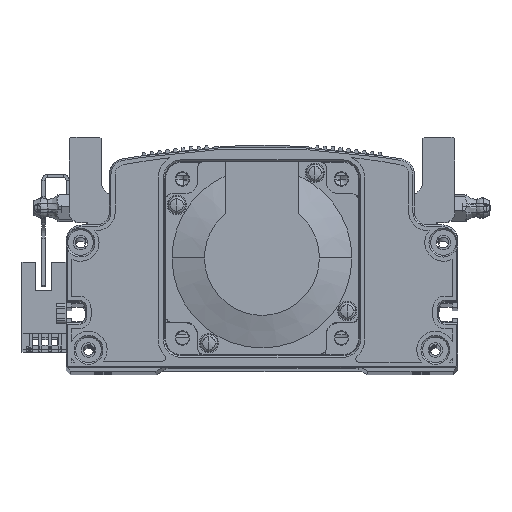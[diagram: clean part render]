
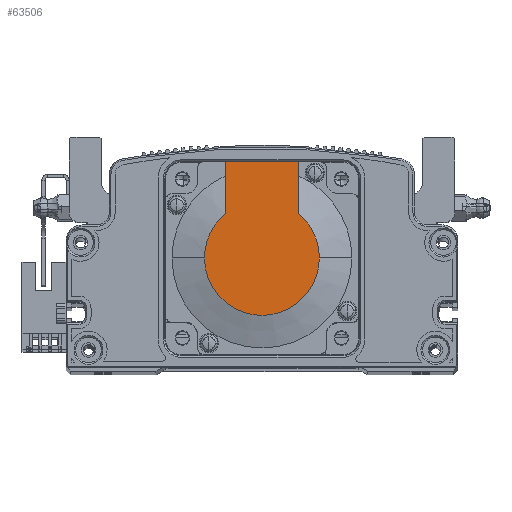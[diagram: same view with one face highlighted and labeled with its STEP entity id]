
A CAD part, top view. The second image highlights one B-rep face of the part: STEP entity #63506.
In plain terms, the highlighted planar face has unit normal (0, 0, 1) as drawn and (-1, 0, 0) by its records, which use the part's own axes.
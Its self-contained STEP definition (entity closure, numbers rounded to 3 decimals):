
#302 = VECTOR ( 'NONE', #37752, 1000. ) ;
#828 = CARTESIAN_POINT ( 'NONE',  ( -118.5, 0., 17.881 ) ) ;
#2372 = VERTEX_POINT ( 'NONE', #55906 ) ;
#4427 = AXIS2_PLACEMENT_3D ( 'NONE', #65293, #46114, #26996 ) ;
#7147 = LINE ( 'NONE', #66294, #75746 ) ;
#9877 = CARTESIAN_POINT ( 'NONE',  ( -118.5, 0., 0. ) ) ;
#11942 = DIRECTION ( 'NONE',  ( 0., 0., -1. ) ) ;
#12347 = ORIENTED_EDGE ( 'NONE', *, *, #35125, .F. ) ;
#12623 = ORIENTED_EDGE ( 'NONE', *, *, #54373, .T. ) ;
#14268 = VERTEX_POINT ( 'NONE', #80947 ) ;
#16119 = FACE_OUTER_BOUND ( 'NONE', #75153, .T. ) ;
#16893 = LINE ( 'NONE', #66373, #61277 ) ;
#17506 = LINE ( 'NONE', #64229, #302 ) ;
#19527 = VERTEX_POINT ( 'NONE', #37504 ) ;
#25506 = DIRECTION ( 'NONE',  ( -1., 0., 0. ) ) ;
#26996 = DIRECTION ( 'NONE',  ( 0., 0., -1. ) ) ;
#27544 = VERTEX_POINT ( 'NONE', #31219 ) ;
#31219 = CARTESIAN_POINT ( 'NONE',  ( -118.5, 30., 11.45 ) ) ;
#35125 = EDGE_CURVE ( 'NONE', #27544, #19527, #17506, .T. ) ;
#35566 = DIRECTION ( 'NONE',  ( 0., -1., 0. ) ) ;
#36665 = AXIS2_PLACEMENT_3D ( 'NONE', #44067, #69976, #11942 ) ;
#37504 = CARTESIAN_POINT ( 'NONE',  ( -118.5, 13.735, 11.45 ) ) ;
#37752 = DIRECTION ( 'NONE',  ( 0., -1., 0. ) ) ;
#38156 = DIRECTION ( 'NONE',  ( 0., 0., 1. ) ) ;
#41273 = DIRECTION ( 'NONE',  ( 0., 0., 1. ) ) ;
#41963 = EDGE_CURVE ( 'NONE', #80080, #19527, #56321, .T. ) ;
#42321 = EDGE_CURVE ( 'NONE', #2372, #80080, #50344, .T. ) ;
#44067 = CARTESIAN_POINT ( 'NONE',  ( -118.5, 0., 0. ) ) ;
#44353 = PLANE ( 'NONE',  #67502 ) ;
#46114 = DIRECTION ( 'NONE',  ( -1., 0., 0. ) ) ;
#49714 = EDGE_CURVE ( 'NONE', #55736, #27544, #16893, .T. ) ;
#50344 = CIRCLE ( 'NONE', #58243, 17.881 ) ;
#54373 = EDGE_CURVE ( 'NONE', #55736, #14268, #7147, .T. ) ;
#55552 = DIRECTION ( 'NONE',  ( -1., 0., 0. ) ) ;
#55736 = VERTEX_POINT ( 'NONE', #72775 ) ;
#55906 = CARTESIAN_POINT ( 'NONE',  ( -118.5, 0., -17.881 ) ) ;
#56321 = CIRCLE ( 'NONE', #36665, 17.881 ) ;
#57729 = ORIENTED_EDGE ( 'NONE', *, *, #41963, .T. ) ;
#58243 = AXIS2_PLACEMENT_3D ( 'NONE', #9877, #55552, #68219 ) ;
#61277 = VECTOR ( 'NONE', #41273, 1000. ) ;
#63506 = ADVANCED_FACE ( 'NONE', ( #16119 ), #44353, .T. ) ;
#64110 = CARTESIAN_POINT ( 'NONE',  ( -118.5, -8.941, 0. ) ) ;
#64229 = CARTESIAN_POINT ( 'NONE',  ( -118.5, 0., 11.45 ) ) ;
#65293 = CARTESIAN_POINT ( 'NONE',  ( -118.5, 0., 0. ) ) ;
#66294 = CARTESIAN_POINT ( 'NONE',  ( -118.5, -8.941, -11.45 ) ) ;
#66373 = CARTESIAN_POINT ( 'NONE',  ( -118.5, 30., 25. ) ) ;
#67502 = AXIS2_PLACEMENT_3D ( 'NONE', #64110, #25506, #38156 ) ;
#68219 = DIRECTION ( 'NONE',  ( 0., 0., -1. ) ) ;
#69976 = DIRECTION ( 'NONE',  ( -1., 0., 0. ) ) ;
#71842 = ORIENTED_EDGE ( 'NONE', *, *, #81619, .T. ) ;
#72775 = CARTESIAN_POINT ( 'NONE',  ( -118.5, 30., -11.45 ) ) ;
#72871 = CIRCLE ( 'NONE', #4427, 17.881 ) ;
#73630 = ORIENTED_EDGE ( 'NONE', *, *, #42321, .T. ) ;
#75153 = EDGE_LOOP ( 'NONE', ( #12623, #71842, #73630, #57729, #12347, #81188 ) ) ;
#75746 = VECTOR ( 'NONE', #35566, 1000. ) ;
#80080 = VERTEX_POINT ( 'NONE', #828 ) ;
#80947 = CARTESIAN_POINT ( 'NONE',  ( -118.5, 13.735, -11.45 ) ) ;
#81188 = ORIENTED_EDGE ( 'NONE', *, *, #49714, .F. ) ;
#81619 = EDGE_CURVE ( 'NONE', #14268, #2372, #72871, .T. ) ;
